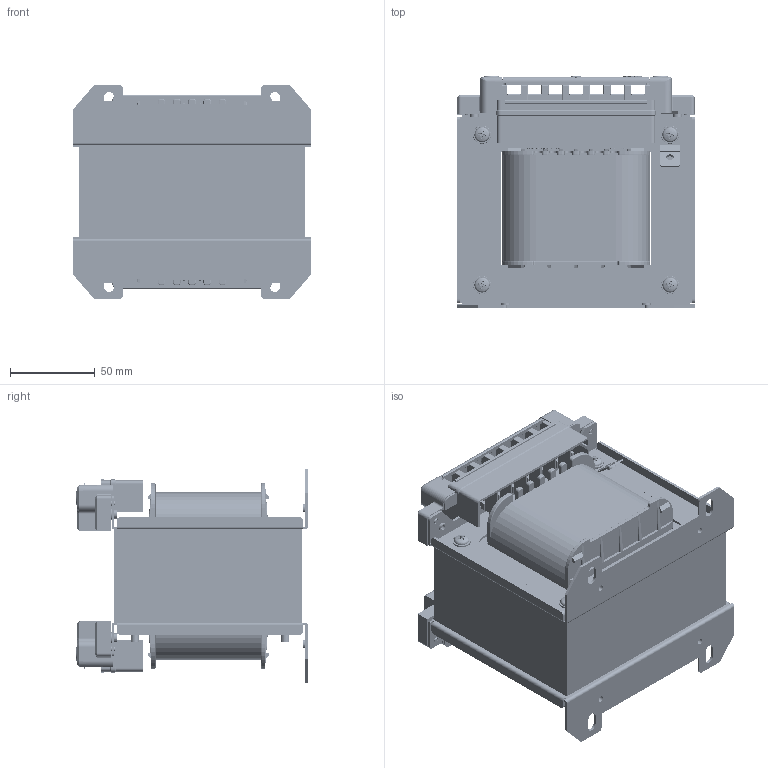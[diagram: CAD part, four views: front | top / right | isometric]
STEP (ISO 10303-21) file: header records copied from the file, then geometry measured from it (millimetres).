
FILE_DESCRIPTION (( 'STEP AP214' ), '1' );
FILE_NAME ('UL TRANS Ass''Y_1P-300VA_rev.0.STEP', '2018-10-16T10:56:25', ( 'Registered User' ), ( 'Microsoft Corporation' ), 'SwSTEP 2.0', 'SolidWorks 2018', '' );
FILE_SCHEMA (( 'AUTOMOTIVE_DESIGN' ));
Length unit declared in the file: millimetre
Products named in the file (14): WBS)5x68_P00; TGI-135CV_R01_遢醴幗 135; TRANS 500VA COIL; TRANS 500VA EI CORE_P00; TRANS BOBBIN(133.2-55)_P02_P00; UL TRANS Ass''Y_1P-300VA_rev.0; UL TRANS 1P 300VA BARRIER_P00; 12mm蕾雖欽濠; 135 欽濠渠 ASS''Y; 105 欽濠渠 TERMINAL; 135欽濠渠 寰瞪COVER; 135欽濠渠 癱貲COVER; 135欽濠渠; M5-STS-FLANGE NUT-6050161507_P00
Assembly tree (30 placements, depth 3):
  UL TRANS Ass''Y_1P-300VA_rev.0
    TRANS BOBBIN(133.2-55)_P02_P00
    TRANS 500VA EI CORE_P00
    TRANS 500VA COIL
    TGI-135CV_R01_遢醴幗 135  x2
    WBS)5x68_P00  x4
    M5-STS-FLANGE NUT-6050161507_P00  x4
    135 欽濠渠 ASS''Y  x2
      135欽濠渠
      135欽濠渠 癱貲COVER
      135欽濠渠 寰瞪COVER
      105 欽濠渠 TERMINAL
    12mm蕾雖欽濠
    UL TRANS 1P 300VA BARRIER_P00  x4
Bounding box: 140 x 137 x 126.2 mm (x, y, z)
Volume: 1171745.4 mm3; surface area: 359827 mm2
Topology: 38 solids, 38 shells, 8212 faces, 21942 edges, 14134 vertices
Faces by surface type: plane 5088, cylinder 1790, bspline 920, torus 266, cone 132, sphere 16
Entity records: 138970 total; most frequent: CARTESIAN_POINT 44041, ORIENTED_EDGE 20926, DIRECTION 17370, EDGE_CURVE 10463, LINE 7718, VECTOR 7718, VERTEX_POINT 6765, AXIS2_PLACEMENT_3D 4826
